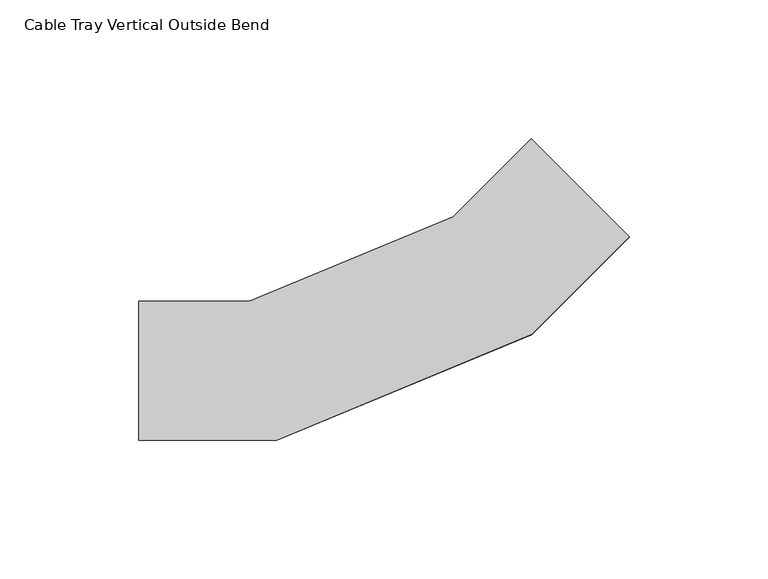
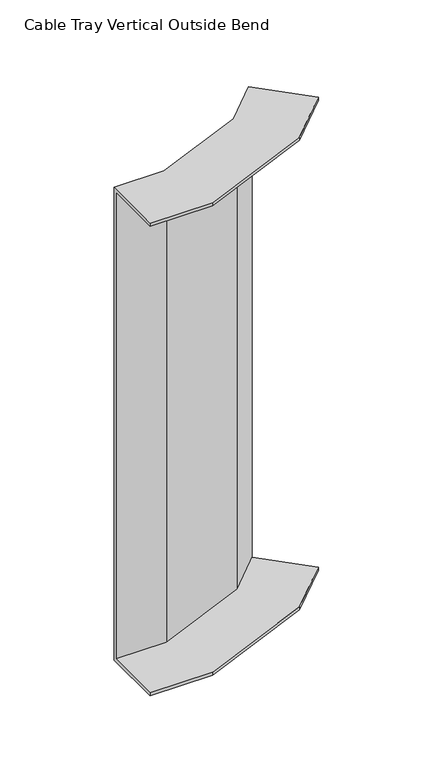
"""IFC4 building model written with IfcOpenShell, lengths in millimetres: cable carrier fitting geometry, Cable Tray Vertical Outside Bend : ELEC_SUB_CT_N2402."""

from ifc_helpers import new_model, si_unit, origin, place, context, project, spatial, faceted_brep, source, transform, mapped, element, save


def cable_tray_vertical_outside_bend_59e16c32(model_context):
    return source(origin(), model_context, "Body", "Brep", [
        faceted_brep([(-93.1980515, -25.0, 200.0), (-93.1980515, 25.0, 200.0), (-93.1980515, 25.0, -200.0), (-93.1980515, -25.0, -200.0), (-93.1980515, -25.0, -197.46), (-93.1980515, 22.46, -197.46), (-93.1980515, 22.46, 197.46), (-93.1980515, -25.0, 197.46), (83.5786438, 48.2233047, 200.0), (83.5786438, 48.2233047, 197.46), (50.0193559, 81.7825925, 197.46), (50.0193559, 81.7825925, -197.46), (83.5786438, 48.2233047, -197.46), (83.5786438, 48.2233047, -200.0), (48.2233047, 83.5786438, -200.0), (48.2233047, 83.5786438, 200.0), (-43.4699597, -25.0, 200.0), (48.4155728, 13.0602337, 200.0), (20.0928479, 55.448187, 200.0), (-53.4155781, 25.0, 200.0), (-53.4155781, 25.0, -200.0), (20.0928479, 55.448187, -200.0), (48.4155728, 13.0602337, -200.0), (-43.4699597, -25.0, -200.0), (-43.4699597, -25.0, -197.46), (48.4155728, 13.0602337, -197.46), (21.5316424, 53.294879, -197.46), (-52.9103406, 22.46, -197.46), (-52.9103406, 22.46, 197.46), (21.5316424, 53.294879, 197.46), (48.4155728, 13.0602337, 197.46), (-43.4699597, -25.0, 197.46)], [[[0, 1, 2, 3, 4, 5, 6, 7]], [[8, 9, 10, 11, 12, 13, 14, 15]], [[1, 0, 16, 17, 8, 15, 18, 19]], [[2, 1, 19, 20]], [[3, 2, 20, 21, 14, 13, 22, 23]], [[4, 3, 23, 24]], [[5, 4, 24, 25, 12, 11, 26, 27]], [[6, 5, 27, 28]], [[7, 6, 28, 29, 10, 9, 30, 31]], [[0, 7, 31, 16]], [[20, 19, 18, 21]], [[24, 23, 22, 25]], [[28, 27, 26, 29]], [[16, 31, 30, 17]], [[21, 18, 15, 14]], [[25, 22, 13, 12]], [[29, 26, 11, 10]], [[17, 30, 9, 8]]]),
    ])


if __name__ == "__main__":
    model = new_model("IFC4")
    model_context = context("Model", 3, world=origin())
    ifc_project = project(units=[si_unit("LENGTHUNIT", "METRE", prefix="MILLI")], contexts=[model_context])
    site = spatial("IfcSite", under=ifc_project)
    building = spatial("IfcBuilding", under=site)
    placement = place(None, origin())
    cable_tray_vertical_outside_bend_shape = cable_tray_vertical_outside_bend_59e16c32(model_context)
    element("IfcCableCarrierFitting", 1, ObjectType="Cable Tray Vertical Outside Bend : ELEC_SUB_CT_N2402", at=placement, inside=building, context=model_context, shape_type="MappedRepresentation", body=[
        mapped(cable_tray_vertical_outside_bend_shape, transform((0.0, 0.0, 0.0), x_axis=(1.0, 0.0, 0.0), y_axis=(0.0, 1.0, 0.0), z_axis=(0.0, 0.0, 1.0))),
    ])
    save(model, "model.ifc")
